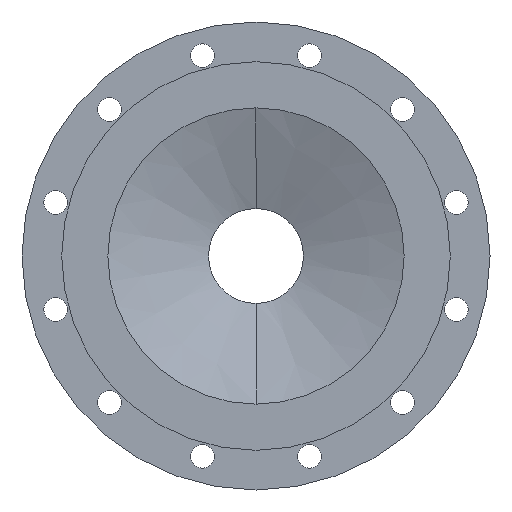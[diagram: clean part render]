
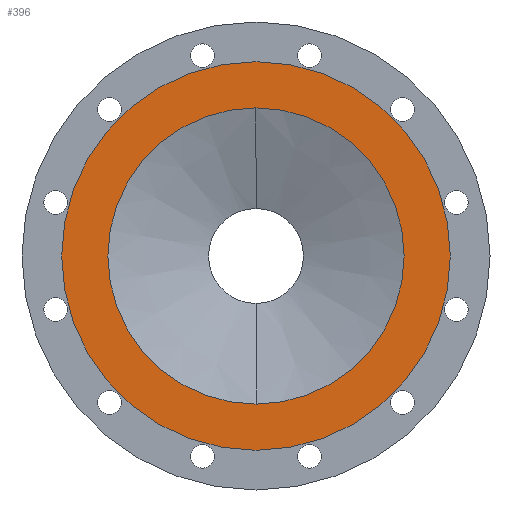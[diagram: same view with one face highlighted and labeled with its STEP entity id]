
A CAD part, left-side view. The second image highlights one B-rep face of the part: STEP entity #396.
In plain terms, the highlighted planar face has unit normal (-1, 0, 0).
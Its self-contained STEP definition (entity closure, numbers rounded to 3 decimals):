
#396=ADVANCED_FACE('',(#800,#801),#802,.F.);
#800=FACE_BOUND('',#1358,.T.);
#801=FACE_OUTER_BOUND('',#1359,.T.);
#802=PLANE('',#1360);
#1358=EDGE_LOOP('',(#1962,#1963));
#1359=EDGE_LOOP('',(#1964,#1965));
#1360=AXIS2_PLACEMENT_3D('',#1966,#1967,#1968);
#1962=ORIENTED_EDGE('',*,*,#3007,.T.);
#1963=ORIENTED_EDGE('',*,*,#3009,.T.);
#1964=ORIENTED_EDGE('',*,*,#3010,.F.);
#1965=ORIENTED_EDGE('',*,*,#3011,.F.);
#1966=CARTESIAN_POINT('',(0.0,0.0,0.));
#1967=DIRECTION('',(1.0,0.0,0.));
#1968=DIRECTION('',(0.,0.0,-1.0));
#3007=EDGE_CURVE('',#3552,#3556,#3558,.T.);
#3009=EDGE_CURVE('',#3556,#3552,#3560,.T.);
#3010=EDGE_CURVE('',#3561,#3562,#3563,.T.);
#3011=EDGE_CURVE('',#3562,#3561,#3564,.T.);
#3552=VERTEX_POINT('',#4269);
#3556=VERTEX_POINT('',#4274);
#3558=CIRCLE('',#4277,125.0);
#3560=CIRCLE('',#4279,125.0);
#3561=VERTEX_POINT('',#4280);
#3562=VERTEX_POINT('',#4281);
#3563=CIRCLE('',#4282,164.0);
#3564=CIRCLE('',#4283,164.0);
#4269=CARTESIAN_POINT('',(0.,0.0,-125.0));
#4274=CARTESIAN_POINT('',(0.,0.,125.0));
#4277=AXIS2_PLACEMENT_3D('',#4973,#4974,#4975);
#4279=AXIS2_PLACEMENT_3D('',#4976,#4977,#4978);
#4280=CARTESIAN_POINT('',(0.,0.0,-164.0));
#4281=CARTESIAN_POINT('',(0.,0.,164.0));
#4282=AXIS2_PLACEMENT_3D('',#4979,#4980,#4981);
#4283=AXIS2_PLACEMENT_3D('',#4982,#4983,#4984);
#4973=CARTESIAN_POINT('',(0.0,0.0,0.0));
#4974=DIRECTION('',(1.0,0.0,0.));
#4975=DIRECTION('',(0.,0.0,-1.0));
#4976=CARTESIAN_POINT('',(0.0,0.0,0.0));
#4977=DIRECTION('',(1.0,0.0,0.));
#4978=DIRECTION('',(0.,0.0,-1.0));
#4979=CARTESIAN_POINT('',(0.0,0.0,0.));
#4980=DIRECTION('',(1.0,0.0,0.));
#4981=DIRECTION('',(0.,0.0,-1.0));
#4982=CARTESIAN_POINT('',(0.0,0.0,0.));
#4983=DIRECTION('',(1.0,0.0,0.));
#4984=DIRECTION('',(0.,0.0,-1.0));
